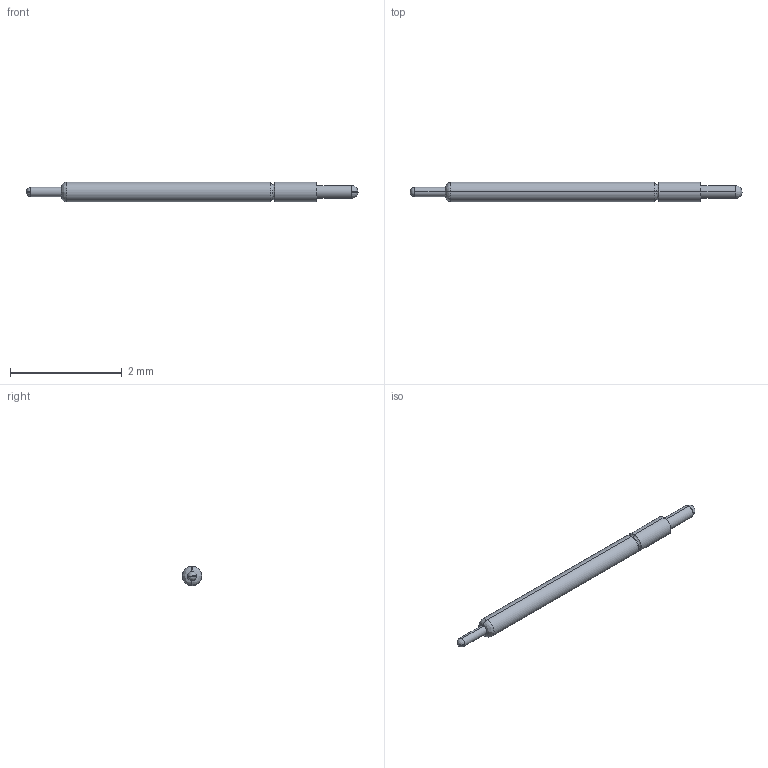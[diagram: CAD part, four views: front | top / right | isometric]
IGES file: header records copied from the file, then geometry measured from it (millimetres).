
Start section: SolidWorks IGES file using analytic representation for surfaces
Global section: file name: Z:\probe solid model mockups\Solidworks models\IGES Files\CSP5-18 IGES files\CSP5-18JJ.IGS; native system: SolidWorks 2006 by SolidWorks Corporation; preprocessor: SolidWorks 2006 by SolidWorks Corporation; author: tsakatani; date: 080108.142232; units: inch
Bounding box: 5.94 x 0.35 x 0.35 mm (x, y, z)
Surface area: 6 mm2 (no closed solid volume)
Topology: 0 solids, 0 shells, 19 faces, 112 edges, 108 vertices
Faces by surface type: revolution 12, bspline 7
